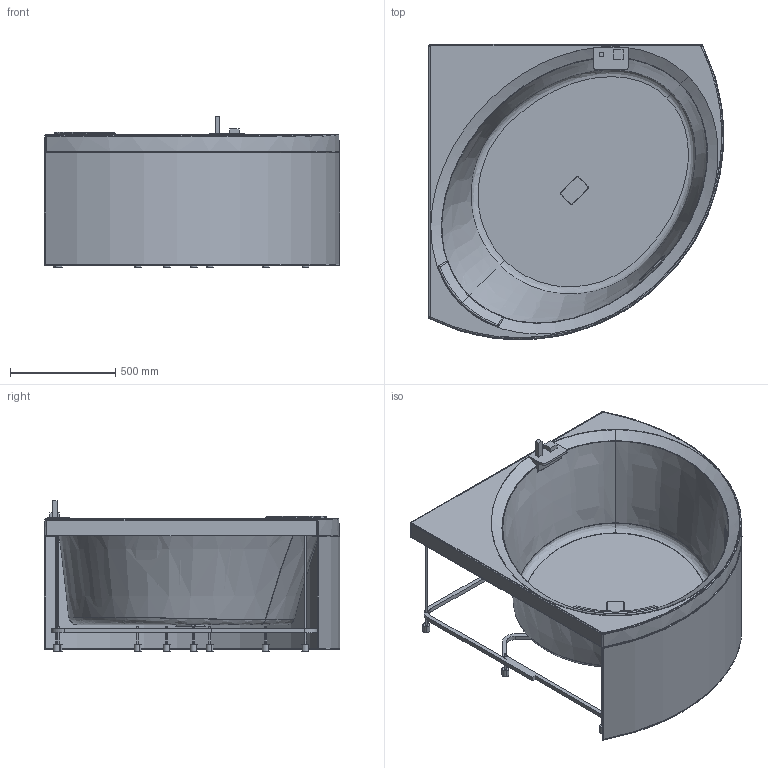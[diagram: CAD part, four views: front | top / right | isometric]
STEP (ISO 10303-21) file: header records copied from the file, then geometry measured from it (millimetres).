
FILE_DESCRIPTION(('STEP AP203'),'2;1');
FILE_NAME('DIV21401402-A1K.stp','2016-02-24T17:38:30',(''),(''),'2014.1.117','THINKDESIGN','');
FILE_SCHEMA(('CONFIG_CONTROL_DESIGN'));
Length unit declared in the file: millimetre
Bounding box: 1401.76 x 1401.98 x 716.4 mm (x, y, z)
Volume: 19468768.3 mm3; surface area: 10715098.4 mm2
Topology: 7 solids, 7 shells, 309 faces, 722 edges, 454 vertices
Faces by surface type: plane 119, cylinder 119, bspline 71
Entity records: 17340 total; most frequent: CARTESIAN_POINT 10415, ORIENTED_EDGE 1428, DIRECTION 1352, EDGE_CURVE 714, AXIS2_PLACEMENT_3D 504, VERTEX_POINT 454, EDGE_LOOP 348, VECTOR 344
